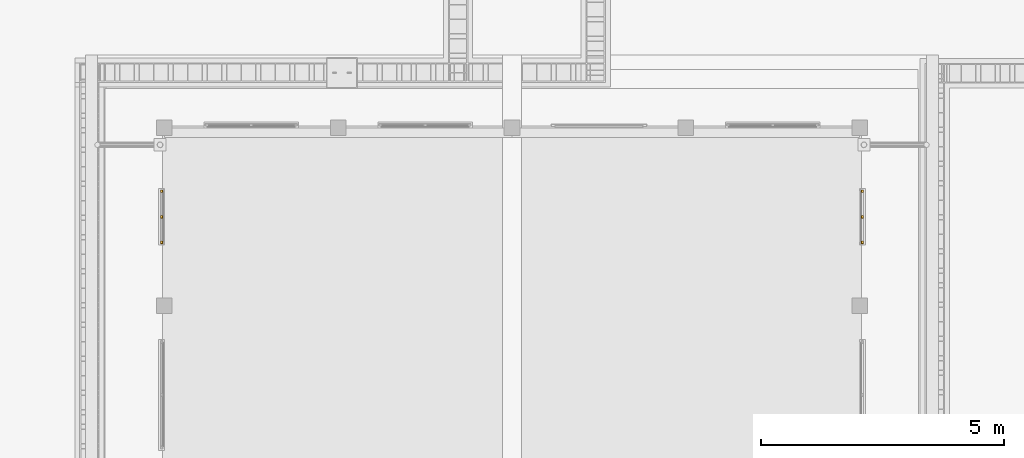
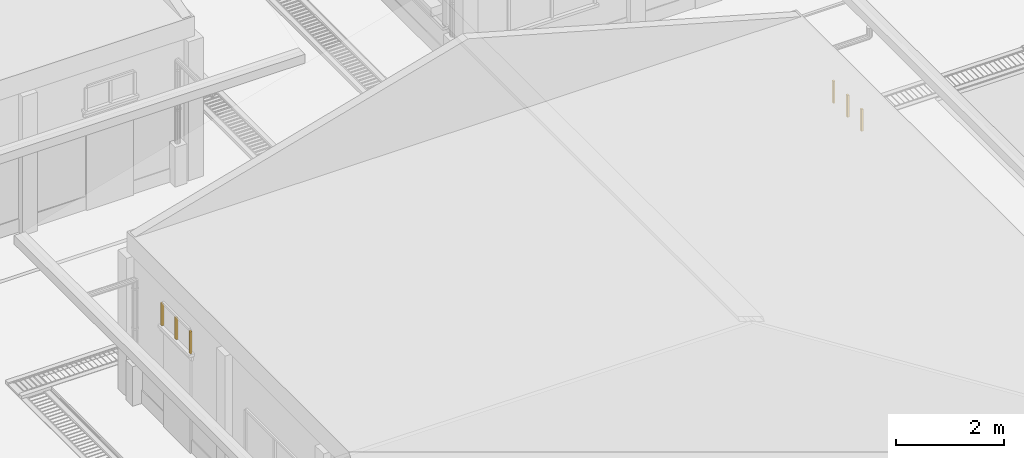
# One storey, part 79 of 151: 6 windows.
"""IFC2X3 building model written with IfcOpenShell, lengths in metres."""

from ifc_helpers import new_model, si_unit, origin, origin_with_axes, place, context, subcontext, project, spatial, faceted_brep, element, save


model = new_model("IFC2X3")

# Units and contexts
model_context = context("Model", 3, precision=1e-05, world=origin_with_axes())
body_context = subcontext(model_context, "Body", "Model", "MODEL_VIEW")
ifc_project = project(units=[si_unit("LENGTHUNIT", "METRE"), si_unit("AREAUNIT", "SQUARE_METRE"), si_unit("VOLUMEUNIT", "CUBIC_METRE"), si_unit("PLANEANGLEUNIT", "RADIAN")], contexts=[model_context])

# Site, building, storey
site_placement = place(None, origin_with_axes())
site = spatial("IfcSite", under=ifc_project, at=site_placement, Name="Predio Los Mangos - Morales, San Martín", CompositionType="ELEMENT")
building_placement = place(site_placement, origin())
building = spatial("IfcBuilding", under=site, at=building_placement, Name="Hogar de Refugio Temporal", CompositionType="ELEMENT")
storey_placement = place(building_placement, origin())
storey = spatial("IfcBuildingStorey", under=building, at=storey_placement, Name="NIVEL 1 (NPT +0.00)", CompositionType="ELEMENT", Elevation=0.0)

# Windows
window_1_placement = place(storey_placement, origin())
element("IfcWindow", 1, at=window_1_placement, inside=storey, Name="E-05_vt7_m", ObjectType="Ventana", context=body_context, shape_type="Brep", body=[
    faceted_brep([(45.22, 84.8187, 2.45), (45.22, 84.8688, 2.45), (45.26, 84.8688, 2.45), (45.26, 84.8187, 2.45), (45.22, 84.8187, 2.95), (45.26, 84.8187, 2.95), (45.26, 84.8688, 2.95), (45.22, 84.8688, 2.95)], [[[0, 1, 2, 3]], [[4, 5, 6, 7]], [[0, 3, 5, 4]], [[3, 2, 6, 5]], [[2, 1, 7, 6]], [[1, 0, 4, 7]]]),
])
window_2_placement = place(storey_placement, origin())
element("IfcWindow", 2, at=window_2_placement, inside=storey, Name="E-05_vt7_m", ObjectType="Ventana", context=body_context, shape_type="Brep", body=[
    faceted_brep([(45.22, 85.8688, 2.45), (45.22, 85.9187, 2.45), (45.26, 85.9187, 2.45), (45.26, 85.8688, 2.45), (45.22, 85.8688, 2.95), (45.26, 85.8688, 2.95), (45.26, 85.9187, 2.95), (45.22, 85.9187, 2.95)], [[[0, 1, 2, 3]], [[4, 5, 6, 7]], [[0, 3, 5, 4]], [[3, 2, 6, 5]], [[2, 1, 7, 6]], [[1, 0, 4, 7]]]),
])
window_3_placement = place(storey_placement, origin())
element("IfcWindow", 3, at=window_3_placement, inside=storey, Name="E-05_vt7_m", ObjectType="Ventana", context=body_context, shape_type="Brep", body=[
    faceted_brep([(45.22, 85.3438, 2.45), (45.22, 85.3938, 2.45), (45.26, 85.3938, 2.45), (45.26, 85.3438, 2.45), (45.22, 85.3438, 2.95), (45.26, 85.3438, 2.95), (45.26, 85.3938, 2.95), (45.22, 85.3938, 2.95)], [[[0, 1, 2, 3]], [[4, 5, 6, 7]], [[0, 3, 5, 4]], [[3, 2, 6, 5]], [[2, 1, 7, 6]], [[1, 0, 4, 7]]]),
])
window_4_placement = place(storey_placement, origin())
element("IfcWindow", 4, at=window_4_placement, inside=storey, Name="E-05_vt7_m", ObjectType="Ventana", context=body_context, shape_type="Brep", body=[
    faceted_brep([(59.64, 84.8187, 2.45), (59.64, 84.8688, 2.45), (59.68, 84.8688, 2.45), (59.68, 84.8187, 2.45), (59.64, 84.8187, 2.95), (59.68, 84.8187, 2.95), (59.68, 84.8688, 2.95), (59.64, 84.8688, 2.95)], [[[0, 1, 2, 3]], [[4, 5, 6, 7]], [[0, 3, 5, 4]], [[3, 2, 6, 5]], [[2, 1, 7, 6]], [[1, 0, 4, 7]]]),
])
window_5_placement = place(storey_placement, origin())
element("IfcWindow", 5, at=window_5_placement, inside=storey, Name="E-05_vt7_m", ObjectType="Ventana", context=body_context, shape_type="Brep", body=[
    faceted_brep([(59.64, 85.8688, 2.45), (59.64, 85.9187, 2.45), (59.68, 85.9187, 2.45), (59.68, 85.8688, 2.45), (59.64, 85.8688, 2.95), (59.68, 85.8688, 2.95), (59.68, 85.9187, 2.95), (59.64, 85.9187, 2.95)], [[[0, 1, 2, 3]], [[4, 5, 6, 7]], [[0, 3, 5, 4]], [[3, 2, 6, 5]], [[2, 1, 7, 6]], [[1, 0, 4, 7]]]),
])
window_6_placement = place(storey_placement, origin())
element("IfcWindow", 6, at=window_6_placement, inside=storey, Name="E-05_vt7_m", ObjectType="Ventana", context=body_context, shape_type="Brep", body=[
    faceted_brep([(59.64, 85.3438, 2.45), (59.64, 85.3938, 2.45), (59.68, 85.3938, 2.45), (59.68, 85.3438, 2.45), (59.64, 85.3438, 2.95), (59.68, 85.3438, 2.95), (59.68, 85.3938, 2.95), (59.64, 85.3938, 2.95)], [[[0, 1, 2, 3]], [[4, 5, 6, 7]], [[0, 3, 5, 4]], [[3, 2, 6, 5]], [[2, 1, 7, 6]], [[1, 0, 4, 7]]]),
])

save(model, "model.ifc")
